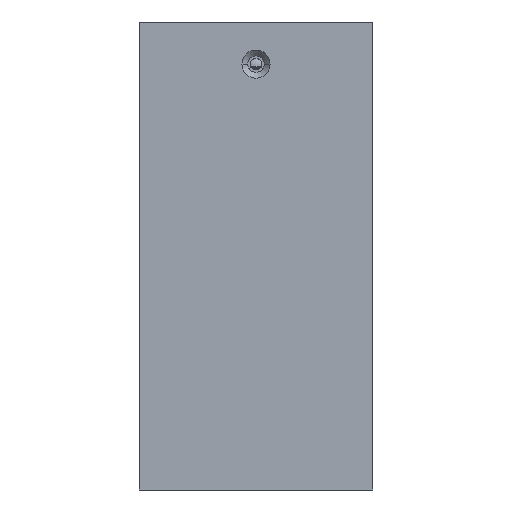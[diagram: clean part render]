
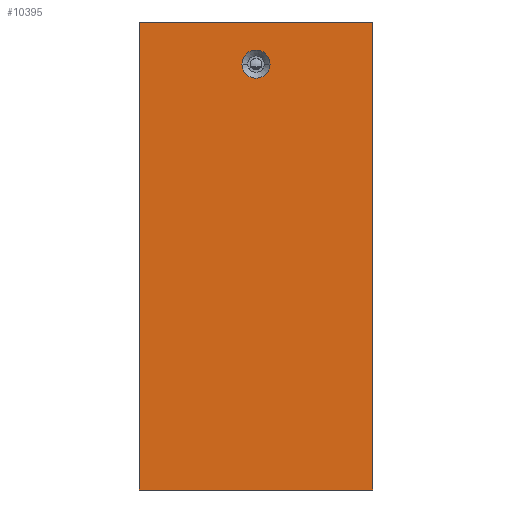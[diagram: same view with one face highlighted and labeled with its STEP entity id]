
A CAD part, left-side view. The second image highlights one B-rep face of the part: STEP entity #10395.
In plain terms, the highlighted planar face has unit normal (-1, 0, 0).
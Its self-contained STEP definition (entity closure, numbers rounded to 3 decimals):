
#1=DIRECTION('',(0.,-1.,0.));
#2=VECTOR('',#1,100.);
#3=CARTESIAN_POINT('',(2115.782,1330.371,39.));
#4=LINE('',#3,#2);
#5=CARTESIAN_POINT('',(2115.782,1280.371,21.));
#6=DIRECTION('',(1.,0.,0.));
#7=DIRECTION('',(0.,-1.,0.));
#8=AXIS2_PLACEMENT_3D('',#5,#6,#7);
#10=CARTESIAN_POINT('',(2115.782,1280.371,21.));
#11=DIRECTION('',(1.,0.,0.));
#12=DIRECTION('',(0.,1.,0.));
#13=AXIS2_PLACEMENT_3D('',#10,#11,#12);
#86=DIRECTION('',(0.,0.,1.));
#87=VECTOR('',#86,200.);
#88=CARTESIAN_POINT('',(2115.782,1230.371,-161.));
#89=LINE('',#88,#87);
#217=DIRECTION('',(0.,0.,-1.));
#218=VECTOR('',#217,200.);
#219=CARTESIAN_POINT('',(2115.782,1330.371,39.));
#220=LINE('',#219,#218);
#453=DIRECTION('',(0.,-1.,0.));
#454=VECTOR('',#453,100.);
#455=CARTESIAN_POINT('',(2115.782,1330.371,-161.));
#456=LINE('',#455,#454);
#8510=CARTESIAN_POINT('',(2115.782,1330.371,-161.));
#8511=CARTESIAN_POINT('',(2115.782,1230.371,-161.));
#8512=VERTEX_POINT('',#8510);
#8513=VERTEX_POINT('',#8511);
#8518=CARTESIAN_POINT('',(2115.782,1230.371,39.));
#8519=VERTEX_POINT('',#8518);
#8522=CARTESIAN_POINT('',(2115.782,1330.371,39.));
#8523=VERTEX_POINT('',#8522);
#10308=CARTESIAN_POINT('',(2115.782,1274.371,21.));
#10309=CARTESIAN_POINT('',(2115.782,1286.371,21.));
#10310=VERTEX_POINT('',#10308);
#10311=VERTEX_POINT('',#10309);
#10374=CARTESIAN_POINT('',(2115.782,1330.371,0.));
#10375=DIRECTION('',(-1.,0.,0.));
#10376=DIRECTION('',(0.,-1.,0.));
#10377=AXIS2_PLACEMENT_3D('',#10374,#10375,#10376);
#10378=PLANE('',#10377);
#10380=ORIENTED_EDGE('',*,*,#10379,.T.);
#10382=ORIENTED_EDGE('',*,*,#10381,.F.);
#10384=ORIENTED_EDGE('',*,*,#10383,.F.);
#10386=ORIENTED_EDGE('',*,*,#10385,.F.);
#10387=EDGE_LOOP('',(#10380,#10382,#10384,#10386));
#10388=FACE_OUTER_BOUND('',#10387,.F.);
#10390=ORIENTED_EDGE('',*,*,#10389,.F.);
#10392=ORIENTED_EDGE('',*,*,#10391,.F.);
#10393=EDGE_LOOP('',(#10390,#10392));
#10394=FACE_BOUND('',#10393,.F.);
#10395=ADVANCED_FACE('',(#10388,#10394),#10378,.T.);
#9=CIRCLE('',#8,6.);
#14=CIRCLE('',#13,6.);
#10379=EDGE_CURVE('',#8523,#8519,#4,.T.);
#10381=EDGE_CURVE('',#8513,#8519,#89,.T.);
#10383=EDGE_CURVE('',#8512,#8513,#456,.T.);
#10385=EDGE_CURVE('',#8523,#8512,#220,.T.);
#10389=EDGE_CURVE('',#10310,#10311,#9,.T.);
#10391=EDGE_CURVE('',#10311,#10310,#14,.T.);
